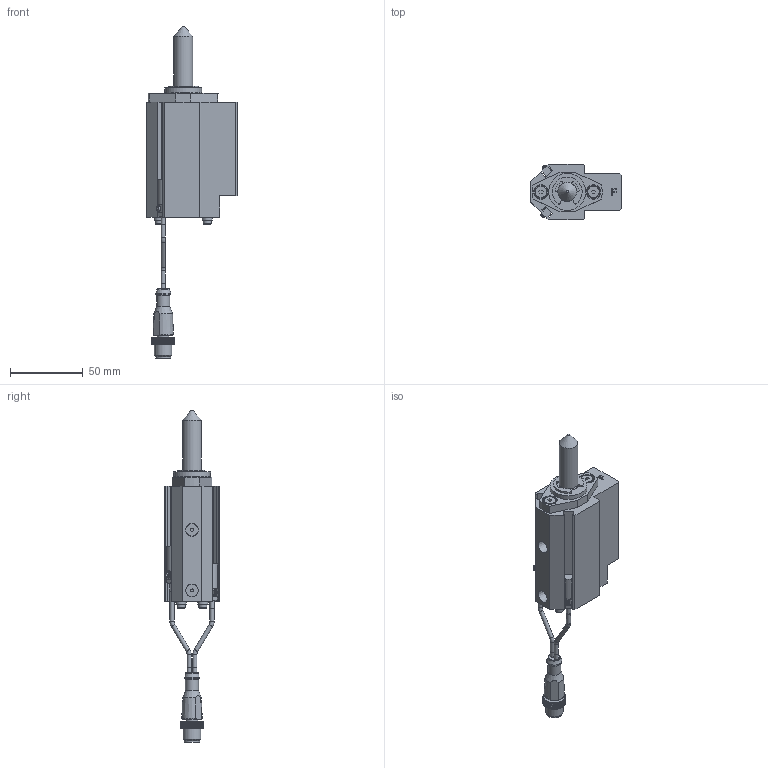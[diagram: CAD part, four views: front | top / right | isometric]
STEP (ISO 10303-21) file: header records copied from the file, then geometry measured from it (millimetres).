
FILE_DESCRIPTION(/* description */ ('NAAMS FLOATING MICRO PIN'),/* implementation_level */ '2;1');
FILE_NAME(/* name */ 'C:\Vault Workspace\CAD\Welker\Shot Pin\NMP\NMP130032AFNL3.stp',/* time_stamp */ '2021-01-27T10:55:57-05:00',/* author */ ('WELKER'),/* organization */ (''),/* preprocessor_version */ 'ST-DEVELOPER v18.1',/* originating_system */ 'Autodesk Inventor 2020',/* authorisation */ '');
FILE_SCHEMA (('AUTOMOTIVE_DESIGN { 1 0 10303 214 3 1 1 }'));
Length unit declared in the file: millimetre
Products named in the file (16): NMPL01; NMP L3 SWITCH; L3 Connector; L3 Sensor 1; L3 Sensor 2; L3 Sensor cable; L3 Sensor cable 2; M3X0.5-8 SHCS; NL3; NMPE06; NMPE03; NMPE05-DIA-LENGTH; 985432A218; NMPE01F-PORT; RMPE02; M5X5 SHOULDER
Assembly tree (22 placements, depth 3):
  NMPL01
    NMP L3 SWITCH
      L3 Connector
      L3 Sensor 1
      L3 Sensor 2
      L3 Sensor cable
      L3 Sensor cable 2
    M3X0.5-8 SHCS  x4
    NL3  x4
    NMPE06
    NMPE03
    NMPE05-DIA-LENGTH
    985432A218
    NMPE01F-PORT
    RMPE02
    M5X5 SHOULDER  x2
Bounding box: 62 x 38.1 x 227.71 mm (x, y, z)
Volume: 116034.8 mm3; surface area: 45718.8 mm2
Topology: 21 solids, 21 shells, 744 faces, 2017 edges, 1348 vertices
Faces by surface type: plane 550, cylinder 143, cone 35, torus 11, sphere 3, bspline 2
Full cylindrical faces by diameter (mm): 2 x2, 2.459 x4, 2.9 x10, 3 x5, 3.242 x2, 3.4 x4, 4 x2, 5 x6, 5.5 x4, 7 x4, 8 x2, 8.3 x2, 8.376 x2, 9 x3, 10 x3, 10.4 x1, 10.5 x1, 12 x1, 13 x3, 16 x2, 19.05 x3, 21 x1, 22.5 x1, 23.672 x1, 24 x1, 25.4 x1, 25.5 x1, 26.5 x1, 28.677 x1, 29.21 x1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
Entity records: 22719 total; most frequent: CARTESIAN_POINT 4156, ORIENTED_EDGE 3728, DIRECTION 3712, EDGE_CURVE 1864, LINE 1380, VECTOR 1380, VERTEX_POINT 1253, AXIS2_PLACEMENT_3D 1166
